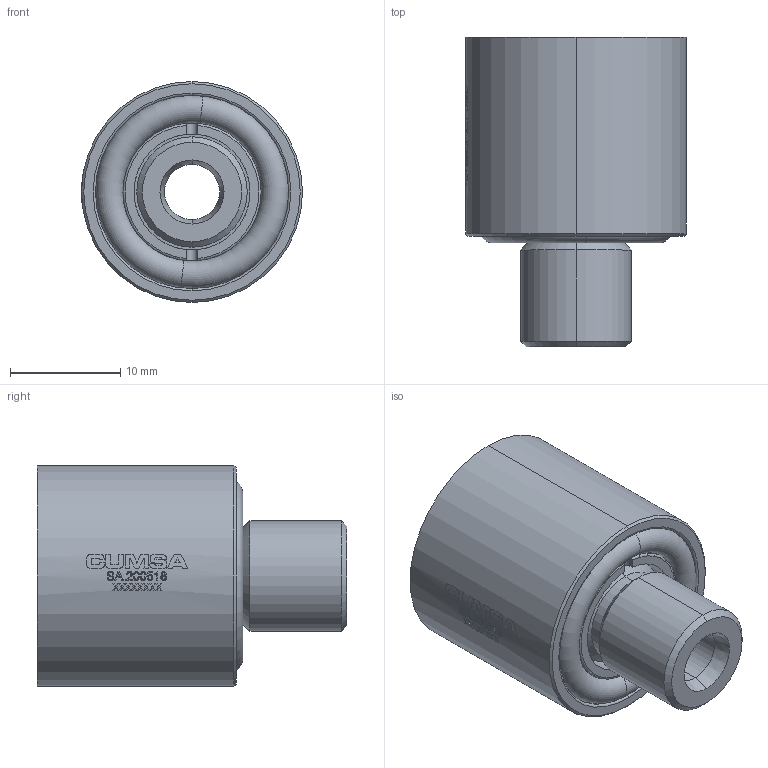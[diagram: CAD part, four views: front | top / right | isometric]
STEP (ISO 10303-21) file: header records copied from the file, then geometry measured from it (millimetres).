
FILE_DESCRIPTION (( 'STEP AP214' ), '1' );
FILE_NAME ('SA200518.STEP', '2018-04-09T10:17:17', ( '' ), ( '' ), 'SwSTEP 2.0', 'SolidWorks 2017', '' );
FILE_SCHEMA (( 'AUTOMOTIVE_DESIGN' ));
Length unit declared in the file: millimetre
Products named in the file (5): SA200518; 9SA200018-C_acabado; 9SA200018-T; 9SA200518-I; JT12.5x2.5
Assembly tree (4 placements, depth 2):
  SA200518
    9SA200018-C_acabado
    9SA200518-I
    9SA200018-T
    JT12.5x2.5
Bounding box: 20 x 28 x 20 mm (x, y, z)
Volume: 5618.7 mm3; surface area: 4353.3 mm2
Topology: 4 solids, 4 shells, 448 faces, 1191 edges, 781 vertices
Faces by surface type: bspline 241, plane 106, cylinder 58, cone 29, torus 14
Entity records: 26998 total; most frequent: CARTESIAN_POINT 14086, ORIENTED_EDGE 2382, EDGE_CURVE 1191, DIRECTION 931, B_SPLINE_CURVE_WITH_KNOTS 822, VERTEX_POINT 781, EDGE_LOOP 486, ADVANCED_FACE 448
